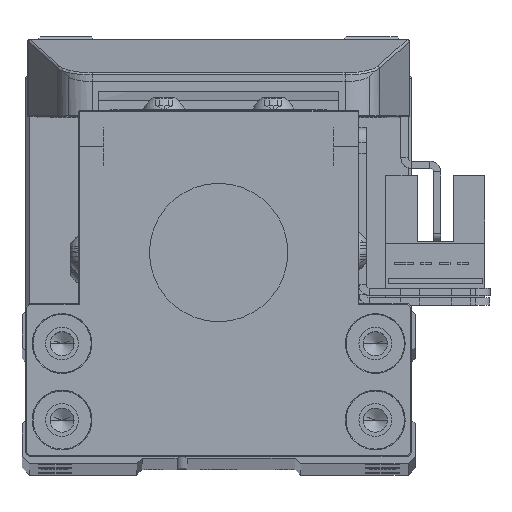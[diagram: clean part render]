
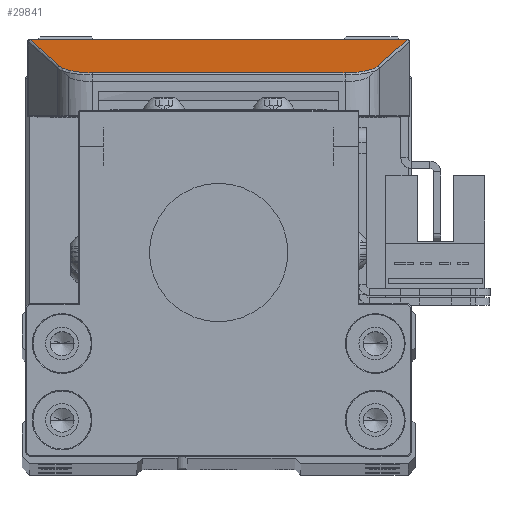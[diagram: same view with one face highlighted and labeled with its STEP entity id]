
A CAD part, top view. The second image highlights one B-rep face of the part: STEP entity #29841.
In plain terms, the highlighted planar face has unit normal (0, 0.962, 0.274) as drawn and (0, 0.274, 0.962) by its records, which use the part's own axes.
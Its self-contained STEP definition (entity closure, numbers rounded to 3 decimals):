
#9 = EDGE_CURVE ( 'NONE', #32940, #6760, #18043, .T. ) ;
#26 = ORIENTED_EDGE ( 'NONE', *, *, #27998, .T. ) ;
#901 = CARTESIAN_POINT ( 'NONE',  ( 17.344, 25.282, -4.638 ) ) ;
#936 = ORIENTED_EDGE ( 'NONE', *, *, #27325, .T. ) ;
#1321 =( BOUNDED_CURVE ( )  B_SPLINE_CURVE ( 3, ( #13217, #28680, #8035, #31287 ),
 .UNSPECIFIED., .F., .T. ) 
 B_SPLINE_CURVE_WITH_KNOTS ( ( 4, 4 ),
 ( 0., 1.263 ),
 .UNSPECIFIED. ) 
 CURVE ( )  GEOMETRIC_REPRESENTATION_ITEM ( )  RATIONAL_B_SPLINE_CURVE ( ( 1., 0.871, 0.871, 1. ) ) 
 REPRESENTATION_ITEM ( '' )  );
#2480 = CARTESIAN_POINT ( 'NONE',  ( 21.823, 22.007, -3.705 ) ) ;
#3215 =( BOUNDED_CURVE ( )  B_SPLINE_CURVE ( 3, ( #32233, #14144, #6485, #24539 ),
 .UNSPECIFIED., .F., .T. ) 
 B_SPLINE_CURVE_WITH_KNOTS ( ( 4, 4 ),
 ( 1.263, 1.274 ),
 .UNSPECIFIED. ) 
 CURVE ( )  GEOMETRIC_REPRESENTATION_ITEM ( )  RATIONAL_B_SPLINE_CURVE ( ( 1., 1., 1., 1. ) ) 
 REPRESENTATION_ITEM ( '' )  );
#3347 = CARTESIAN_POINT ( 'NONE',  ( -21.823, 22.007, -3.705 ) ) ;
#3497 = EDGE_CURVE ( 'NONE', #11469, #11105, #30290, .T. ) ;
#4954 = VECTOR ( 'NONE', #22373, 1000. ) ;
#5146 = ORIENTED_EDGE ( 'NONE', *, *, #9, .T. ) ;
#5357 = VECTOR ( 'NONE', #28920, 1000. ) ;
#5382 = CARTESIAN_POINT ( 'NONE',  ( 21.179, 24.03, -4.281 ) ) ;
#5385 = CARTESIAN_POINT ( 'NONE',  ( 25.876, 9.269, -0.077 ) ) ;
#5704 = EDGE_LOOP ( 'NONE', ( #5146, #936, #26, #30908, #6076, #25840, #24650, #19539 ) ) ;
#6076 = ORIENTED_EDGE ( 'NONE', *, *, #29012, .T. ) ;
#6485 = CARTESIAN_POINT ( 'NONE',  ( -25.874, 9.275, -0.078 ) ) ;
#6760 = VERTEX_POINT ( 'NONE', #5385 ) ;
#8035 = CARTESIAN_POINT ( 'NONE',  ( -21.179, 24.03, -4.281 ) ) ;
#10198 = CARTESIAN_POINT ( 'NONE',  ( 25.876, 9.269, -0.077 ) ) ;
#10973 = LINE ( 'NONE', #24946, #4954 ) ;
#11105 = VERTEX_POINT ( 'NONE', #901 ) ;
#11134 = AXIS2_PLACEMENT_3D ( 'NONE', #28282, #12825, #30895 ) ;
#11177 = VECTOR ( 'NONE', #33211, 1000. ) ;
#11469 = VERTEX_POINT ( 'NONE', #2480 ) ;
#12359 = DIRECTION ( 'NONE',  ( -1., 0., 0. ) ) ;
#12806 = CARTESIAN_POINT ( 'NONE',  ( 25.874, 9.275, -0.078 ) ) ;
#12825 = DIRECTION ( 'NONE',  ( 0., -0.274, -0.962 ) ) ;
#13217 = CARTESIAN_POINT ( 'NONE',  ( -17.344, 25.282, -4.638 ) ) ;
#13529 = EDGE_CURVE ( 'NONE', #24449, #28815, #10973, .T. ) ;
#14144 = CARTESIAN_POINT ( 'NONE',  ( -25.872, 9.281, -0.08 ) ) ;
#14345 =( BOUNDED_CURVE ( )  B_SPLINE_CURVE ( 3, ( #10198, #12806, #33479, #17994 ),
 .UNSPECIFIED., .F., .T. ) 
 B_SPLINE_CURVE_WITH_KNOTS ( ( 4, 4 ),
 ( 5.009, 5.02 ),
 .UNSPECIFIED. ) 
 CURVE ( )  GEOMETRIC_REPRESENTATION_ITEM ( )  RATIONAL_B_SPLINE_CURVE ( ( 1., 1., 1., 1. ) ) 
 REPRESENTATION_ITEM ( '' )  );
#14783 = CARTESIAN_POINT ( 'NONE',  ( -25.876, 9.269, -0.077 ) ) ;
#15377 = VERTEX_POINT ( 'NONE', #31771 ) ;
#15612 = CARTESIAN_POINT ( 'NONE',  ( 21.823, 22.007, -3.705 ) ) ;
#16786 = CARTESIAN_POINT ( 'NONE',  ( -25.87, 9.287, -0.082 ) ) ;
#17030 = VECTOR ( 'NONE', #12359, 1000. ) ;
#17994 = CARTESIAN_POINT ( 'NONE',  ( 25.87, 9.287, -0.082 ) ) ;
#18043 = LINE ( 'NONE', #31178, #11177 ) ;
#19539 = ORIENTED_EDGE ( 'NONE', *, *, #32253, .T. ) ;
#20498 = PLANE ( 'NONE',  #11134 ) ;
#20824 = CARTESIAN_POINT ( 'NONE',  ( 19.466, 25.282, -4.638 ) ) ;
#21538 = EDGE_CURVE ( 'NONE', #33282, #24449, #1321, .T. ) ;
#22373 = DIRECTION ( 'NONE',  ( -0.293, -0.92, 0.262 ) ) ;
#24449 = VERTEX_POINT ( 'NONE', #3347 ) ;
#24539 = CARTESIAN_POINT ( 'NONE',  ( -25.876, 9.269, -0.077 ) ) ;
#24650 = ORIENTED_EDGE ( 'NONE', *, *, #13529, .T. ) ;
#24946 = CARTESIAN_POINT ( 'NONE',  ( -22.655, 19.393, -2.96 ) ) ;
#25153 = CARTESIAN_POINT ( 'NONE',  ( 17.344, 25.282, -4.638 ) ) ;
#25840 = ORIENTED_EDGE ( 'NONE', *, *, #21538, .T. ) ;
#26313 = CARTESIAN_POINT ( 'NONE',  ( 15.221, 42.754, -9.615 ) ) ;
#27325 = EDGE_CURVE ( 'NONE', #6760, #15377, #14345, .T. ) ;
#27998 = EDGE_CURVE ( 'NONE', #15377, #11469, #32822, .T. ) ;
#28282 = CARTESIAN_POINT ( 'NONE',  ( -43.406, 25.5, -4.7 ) ) ;
#28670 = FACE_OUTER_BOUND ( 'NONE', #5704, .T. ) ;
#28680 = CARTESIAN_POINT ( 'NONE',  ( -19.466, 25.282, -4.638 ) ) ;
#28815 = VERTEX_POINT ( 'NONE', #16786 ) ;
#28888 = CARTESIAN_POINT ( 'NONE',  ( -17.344, 25.282, -4.638 ) ) ;
#28920 = DIRECTION ( 'NONE',  ( -0.293, 0.92, -0.262 ) ) ;
#29012 = EDGE_CURVE ( 'NONE', #11105, #33282, #30775, .T. ) ;
#29841 = ADVANCED_FACE ( 'NONE', ( #28670 ), #20498, .F. ) ;
#30290 =( BOUNDED_CURVE ( )  B_SPLINE_CURVE ( 3, ( #15612, #5382, #20824, #25153 ),
 .UNSPECIFIED., .F., .F. ) 
 B_SPLINE_CURVE_WITH_KNOTS ( ( 4, 4 ),
 ( 5.02, 6.283 ),
 .UNSPECIFIED. ) 
 CURVE ( )  GEOMETRIC_REPRESENTATION_ITEM ( )  RATIONAL_B_SPLINE_CURVE ( ( 1., 0.871, 0.871, 1. ) ) 
 REPRESENTATION_ITEM ( '' )  );
#30775 = LINE ( 'NONE', #33052, #17030 ) ;
#30895 = DIRECTION ( 'NONE',  ( 0., 0.962, -0.274 ) ) ;
#30908 = ORIENTED_EDGE ( 'NONE', *, *, #3497, .T. ) ;
#31178 = CARTESIAN_POINT ( 'NONE',  ( 26.25, 9.269, -0.077 ) ) ;
#31287 = CARTESIAN_POINT ( 'NONE',  ( -21.823, 22.007, -3.705 ) ) ;
#31771 = CARTESIAN_POINT ( 'NONE',  ( 25.87, 9.287, -0.082 ) ) ;
#32233 = CARTESIAN_POINT ( 'NONE',  ( -25.87, 9.287, -0.082 ) ) ;
#32253 = EDGE_CURVE ( 'NONE', #28815, #32940, #3215, .T. ) ;
#32822 = LINE ( 'NONE', #26313, #5357 ) ;
#32940 = VERTEX_POINT ( 'NONE', #14783 ) ;
#33052 = CARTESIAN_POINT ( 'NONE',  ( -17.344, 25.282, -4.638 ) ) ;
#33211 = DIRECTION ( 'NONE',  ( 1., 0., 0. ) ) ;
#33282 = VERTEX_POINT ( 'NONE', #28888 ) ;
#33479 = CARTESIAN_POINT ( 'NONE',  ( 25.872, 9.281, -0.08 ) ) ;
